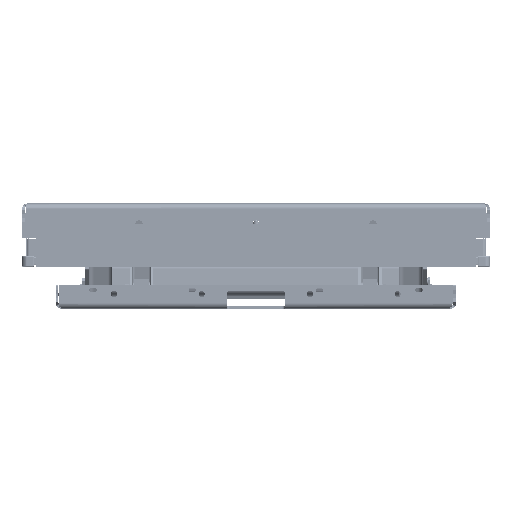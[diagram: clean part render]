
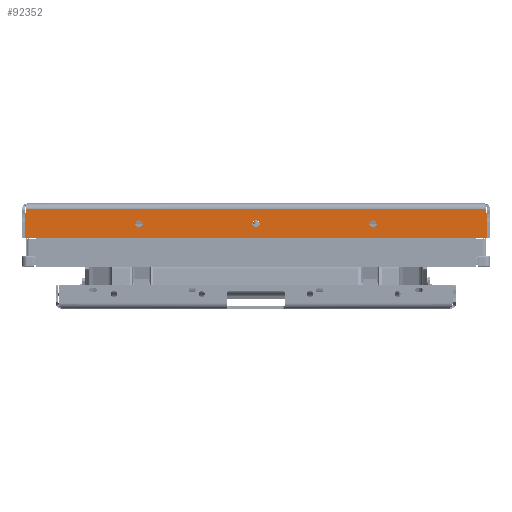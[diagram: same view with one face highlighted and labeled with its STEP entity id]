
A CAD part, left-side view. The second image highlights one B-rep face of the part: STEP entity #92352.
In plain terms, the highlighted planar face has unit normal (-1, 0, 0).
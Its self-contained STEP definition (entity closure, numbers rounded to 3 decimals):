
#1472=FACE_BOUND('',#12093,.T.);
#1473=FACE_BOUND('',#12094,.T.);
#1474=FACE_BOUND('',#12095,.T.);
#6378=FACE_OUTER_BOUND('',#12092,.T.);
#12092=EDGE_LOOP('',(#64686,#64687,#64688,#64689,#64690,#64691,#64692,#64693));
#12093=EDGE_LOOP('',(#64694));
#12094=EDGE_LOOP('',(#64695));
#12095=EDGE_LOOP('',(#64696));
#18340=CIRCLE('',#98500,1.);
#18346=CIRCLE('',#98509,1.);
#18347=CIRCLE('',#98512,6.25);
#18348=CIRCLE('',#98513,6.25);
#18349=CIRCLE('',#98514,6.25);
#22988=LINE('',#143805,#31073);
#22996=LINE('',#143832,#31081);
#22998=LINE('',#143836,#31083);
#22999=LINE('',#143838,#31084);
#23000=LINE('',#143839,#31085);
#23001=LINE('',#143840,#31086);
#31073=VECTOR('',#109910,39.494);
#31081=VECTOR('',#109934,39.494);
#31083=VECTOR('',#109938,9.585);
#31084=VECTOR('',#109939,786.533);
#31085=VECTOR('',#109940,9.585);
#31086=VECTOR('',#109941,787.);
#39236=VERTEX_POINT('',#143792);
#39237=VERTEX_POINT('',#143793);
#39241=VERTEX_POINT('',#143803);
#39250=VERTEX_POINT('',#143825);
#39251=VERTEX_POINT('',#143826);
#39252=VERTEX_POINT('',#143831);
#39253=VERTEX_POINT('',#143835);
#39254=VERTEX_POINT('',#143837);
#39255=VERTEX_POINT('',#143841);
#39256=VERTEX_POINT('',#143843);
#39257=VERTEX_POINT('',#143845);
#49098=EDGE_CURVE('',#39236,#39237,#18340,.T.);
#49104=EDGE_CURVE('',#39241,#39236,#22988,.T.);
#49114=EDGE_CURVE('',#39250,#39251,#18346,.T.);
#49117=EDGE_CURVE('',#39251,#39252,#22996,.T.);
#49119=EDGE_CURVE('',#39241,#39253,#22998,.T.);
#49120=EDGE_CURVE('',#39253,#39254,#22999,.T.);
#49121=EDGE_CURVE('',#39254,#39252,#23000,.T.);
#49122=EDGE_CURVE('',#39237,#39250,#23001,.T.);
#49123=EDGE_CURVE('',#39255,#39255,#18347,.T.);
#49124=EDGE_CURVE('',#39256,#39256,#18348,.T.);
#49125=EDGE_CURVE('',#39257,#39257,#18349,.T.);
#64686=ORIENTED_EDGE('',*,*,#49098,.F.);
#64687=ORIENTED_EDGE('',*,*,#49104,.F.);
#64688=ORIENTED_EDGE('',*,*,#49119,.T.);
#64689=ORIENTED_EDGE('',*,*,#49120,.T.);
#64690=ORIENTED_EDGE('',*,*,#49121,.T.);
#64691=ORIENTED_EDGE('',*,*,#49117,.F.);
#64692=ORIENTED_EDGE('',*,*,#49114,.F.);
#64693=ORIENTED_EDGE('',*,*,#49122,.F.);
#64694=ORIENTED_EDGE('',*,*,#49123,.T.);
#64695=ORIENTED_EDGE('',*,*,#49124,.T.);
#64696=ORIENTED_EDGE('',*,*,#49125,.T.);
#89272=PLANE('',#98511);
#92352=ADVANCED_FACE('',(#6378,#1472,#1473,#1474),#89272,.F.);
#98500=AXIS2_PLACEMENT_3D('',#143794,#109900,#109901);
#98509=AXIS2_PLACEMENT_3D('',#143827,#109928,#109929);
#98511=AXIS2_PLACEMENT_3D('',#143834,#109936,#109937);
#98512=AXIS2_PLACEMENT_3D('',#143842,#109942,#109943);
#98513=AXIS2_PLACEMENT_3D('',#143844,#109944,#109945);
#98514=AXIS2_PLACEMENT_3D('',#143846,#109946,#109947);
#109900=DIRECTION('center_axis',(1.,0.,0.));
#109901=DIRECTION('ref_axis',(0.,-0.707,
-0.707));
#109910=DIRECTION('',(0.,0.,-1.));
#109928=DIRECTION('center_axis',(1.,0.,0.));
#109929=DIRECTION('ref_axis',(0.,0.707,-0.707));
#109934=DIRECTION('',(0.,0.,1.));
#109936=DIRECTION('center_axis',(1.,0.,0.));
#109937=DIRECTION('ref_axis',(0.,0.,-1.));
#109938=DIRECTION('',(0.,0.129,0.992));
#109939=DIRECTION('',(0.,1.,0.));
#109940=DIRECTION('',(0.,0.129,-0.992));
#109941=DIRECTION('',(0.,1.,0.));
#109942=DIRECTION('center_axis',(1.,0.,0.));
#109943=DIRECTION('ref_axis',(0.,0.,
1.));
#109944=DIRECTION('center_axis',(1.,0.,0.));
#109945=DIRECTION('ref_axis',(0.,0.,
1.));
#109946=DIRECTION('center_axis',(1.,0.,0.));
#109947=DIRECTION('ref_axis',(0.,0.,
1.));
#143792=CARTESIAN_POINT('',(-446.757,-408.439,121.));
#143793=CARTESIAN_POINT('',(-446.757,-407.439,120.));
#143794=CARTESIAN_POINT('Origin',(-446.757,-407.439,121.));
#143803=CARTESIAN_POINT('',(-446.757,-408.439,160.494));
#143805=CARTESIAN_POINT('',(-446.757,-408.439,170.));
#143825=CARTESIAN_POINT('',(-446.757,379.561,120.));
#143826=CARTESIAN_POINT('',(-446.757,380.561,121.));
#143827=CARTESIAN_POINT('Origin',(-446.757,379.561,121.));
#143831=CARTESIAN_POINT('',(-446.757,380.561,160.494));
#143832=CARTESIAN_POINT('',(-446.757,380.561,170.));
#143834=CARTESIAN_POINT('Origin',(-446.757,-13.939,149.973));
#143835=CARTESIAN_POINT('',(-446.757,-407.205,170.));
#143836=CARTESIAN_POINT('',(-446.757,-405.843,180.496));
#143837=CARTESIAN_POINT('',(-446.757,379.328,170.));
#143838=CARTESIAN_POINT('',(-446.757,-13.939,170.));
#143839=CARTESIAN_POINT('',(-446.757,377.965,180.496));
#143840=CARTESIAN_POINT('',(-446.757,-408.439,120.));
#143841=CARTESIAN_POINT('',(-446.757,186.061,151.25));
#143842=CARTESIAN_POINT('Origin',(-446.757,186.061,145.));
#143843=CARTESIAN_POINT('',(-446.757,-13.939,151.25));
#143844=CARTESIAN_POINT('Origin',(-446.757,-13.939,145.));
#143845=CARTESIAN_POINT('',(-446.757,-213.939,151.25));
#143846=CARTESIAN_POINT('Origin',(-446.757,-213.939,145.));
